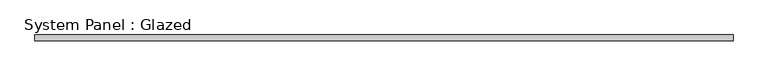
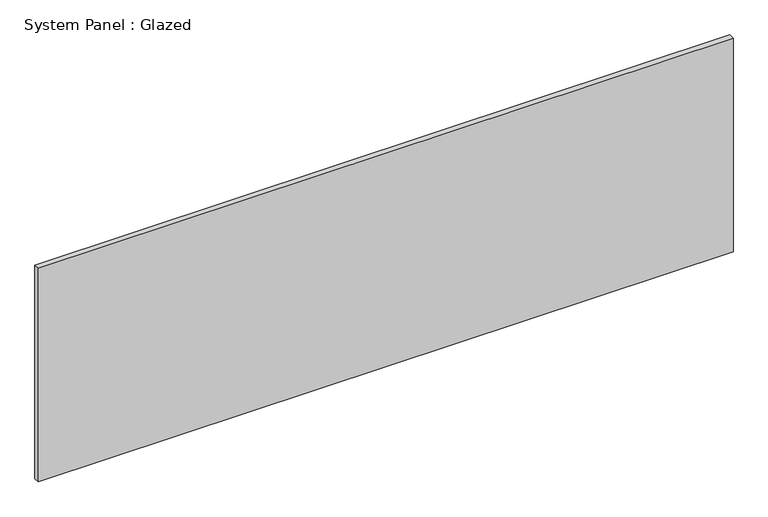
"""IFC4 building model written with IfcOpenShell, lengths in millimetres: plate geometry, System Panel : Glazed."""

from ifc_helpers import new_model, si_unit, origin, origin_with_axes, place, context, project, spatial, polyline, outline, extrude, source, transform, mapped, element, save


def system_panel_glazed_005117af(model_context):
    return source(origin(), model_context, "Body", "SweptSolid", [
        extrude(outline(polyline([(1524.0, 19.05), (-1524.0, 19.05), (-1524.0, 44.45), (1524.0, 44.45), (1524.0, 19.05)])), origin_with_axes(), (0.0, 0.0, 1.0), 990.9101454),
    ])


if __name__ == "__main__":
    model = new_model("IFC4")
    model_context = context("Model", 3, world=origin())
    ifc_project = project(units=[si_unit("LENGTHUNIT", "METRE", prefix="MILLI")], contexts=[model_context])
    site = spatial("IfcSite", under=ifc_project)
    building = spatial("IfcBuilding", under=site)
    placement = place(None, origin())
    system_panel_glazed_shape = system_panel_glazed_005117af(model_context)
    element("IfcPlate", 1, ObjectType="System Panel : Glazed", at=placement, inside=building, context=model_context, shape_type="MappedRepresentation", body=[
        mapped(system_panel_glazed_shape, transform((0.0, 0.0, 0.0), x_axis=(1.0, 0.0, 0.0), y_axis=(0.0, 1.0, 0.0), z_axis=(0.0, 0.0, 1.0))),
    ])
    save(model, "model.ifc")
